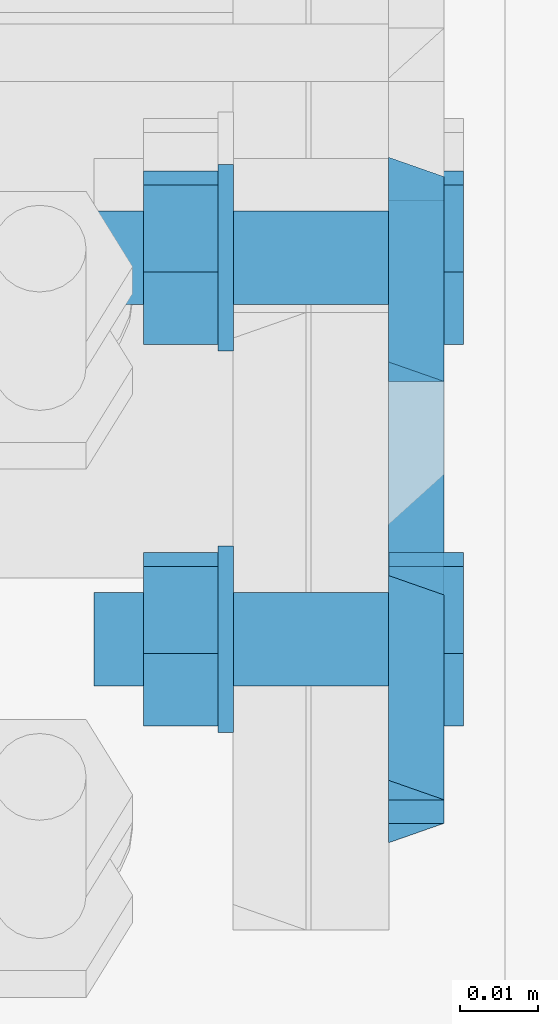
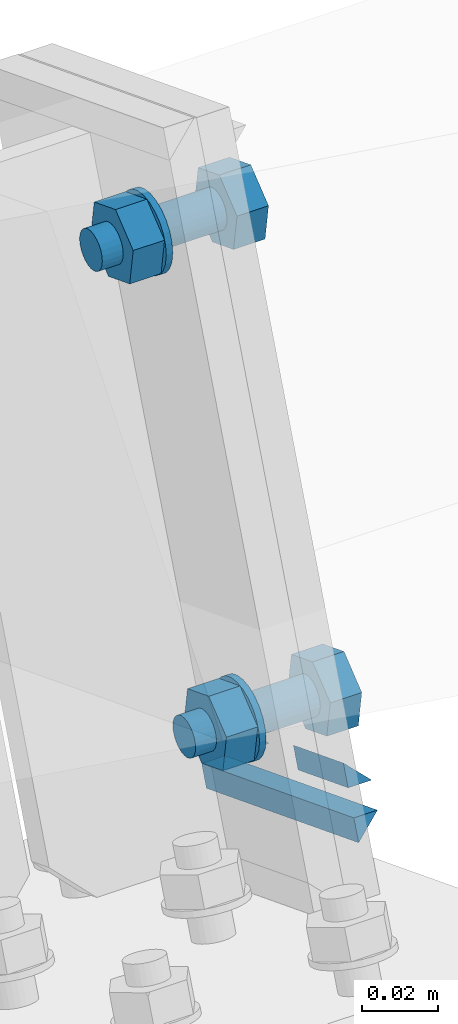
# One storey, part 49 of 72: 8 mechanical fasteners, 5 fasteners.
"""IFC4 building model written with IfcOpenShell, lengths in metres."""

from ifc_helpers import new_model, si_unit, frame, origin_with_axes, place, context, project, spatial, polyline, outline, extrude, type_object, element, save


model = new_model("IFC4")

# Units and contexts
model_context = context("Model", 3, precision=1e-05, world=origin_with_axes())
ifc_project = project(units=[si_unit("LENGTHUNIT", "METRE"), si_unit("AREAUNIT", "SQUARE_METRE"), si_unit("VOLUMEUNIT", "CUBIC_METRE"), si_unit("MASSUNIT", "GRAM", prefix="KILO"), si_unit("TIMEUNIT", "SECOND"), si_unit("PLANEANGLEUNIT", "RADIAN"), si_unit("SOLIDANGLEUNIT", "STERADIAN"), si_unit("THERMODYNAMICTEMPERATUREUNIT", "DEGREE_CELSIUS")], contexts=[model_context])

# Site, building, storey
placement_1 = place(None, origin_with_axes())
site = spatial("IfcSite", under=ifc_project, at=placement_1, Name="Italia", CompositionType="ELEMENT")
building = spatial("IfcBuilding", under=site, at=placement_1, Name="Uffici", CompositionType="ELEMENT")
storey = spatial("IfcBuildingStorey", under=building, at=placement_1, Name="Storey 0", CompositionType="ELEMENT", Elevation=0.0)

# Fasteners
fastener_type_1 = type_object("IfcFastenerType", Name="Collegamento 0208_0209", PredefinedType="WELD")
placement_2 = place(placement_1, origin_with_axes())
fastener_1_placement = place(placement_2, origin_with_axes())
element("IfcFastener", 1, at=fastener_1_placement, inside=storey, type_object=fastener_type_1, Name="Collegamento 0208_0209", context=model_context, shape_type="SweptSolid", body=[
    extrude(outline(polyline([(0.0, 0.0), (-0.00717354, 0.00695848), (0.0, 0.00695848), (0.0, 0.0)])), frame((6.82995, 4.78507, 5.16264), z_axis=(0.0, 0.932385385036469, -0.361465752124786), x_axis=(-1.0, 0.0, 0.0)), (0.0, 0.0, 1.0), 0.0861),
])
fastener_type_2 = type_object("IfcFastenerType", Name="Collegamento 0208_0209", PredefinedType="WELD")
fastener_2_placement = place(placement_2, origin_with_axes())
element("IfcFastener", 2, at=fastener_2_placement, inside=storey, type_object=fastener_type_2, Name="Collegamento 0208_0209", context=model_context, shape_type="SweptSolid", body=[
    extrude(outline(polyline([(0.0, 0.0), (0.00717354, -0.00695801), (0.0, -0.00695801), (0.0, 0.0)])), frame((6.82995, 4.81952, 5.17322), z_axis=(0.0, -0.932381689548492, 0.361475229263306), x_axis=(1.0, 0.0, 0.0)), (0.0, 0.0, 1.0), 0.0283009),
])
fastener_type_3 = type_object("IfcFastenerType", Name="Collegamento 0208_0209", PredefinedType="WELD")
fastener_3_placement = place(placement_2, origin_with_axes())
element("IfcFastener", 3, at=fastener_3_placement, inside=storey, type_object=fastener_type_3, Name="Collegamento 0208_0209", context=model_context, shape_type="SweptSolid", body=[
    extrude(outline(polyline([(0.0, 0.0), (0.00717354, -0.00695753), (0.0, -0.00695753), (0.0, 0.0)])), frame((6.82995, 4.87342, 5.15233), z_axis=(0.0, -0.932390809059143, 0.361451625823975), x_axis=(1.0, 0.0, 0.0)), (0.0, 0.0, 1.0), 0.0283001),
])
fastener_type_4 = type_object("IfcFastenerType", Name="Collegamento 0208_0209", PredefinedType="WELD")
fastener_4_placement = place(placement_2, origin_with_axes())
element("IfcFastener", 4, at=fastener_4_placement, inside=storey, type_object=fastener_type_4, Name="Collegamento 0208_0209", context=model_context, shape_type="SweptSolid", body=[
    extrude(outline(polyline([(0.0, 0.0), (-0.00717354, 0.00695848), (0.0, 0.00695848), (0.0, 0.0)])), frame((6.82995, 4.78507, 5.16264), z_axis=(0.0, 0.932385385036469, -0.361465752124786), x_axis=(-1.0, 0.0, 0.0)), (0.0, 0.0, 1.0), 0.0861),
])
fastener_type_5 = type_object("IfcFastenerType", Name="Collegamento 0208_0209", PredefinedType="WELD")
fastener_5_placement = place(placement_2, origin_with_axes())
element("IfcFastener", 5, at=fastener_5_placement, inside=storey, type_object=fastener_type_5, Name="Collegamento 0208_0209", context=model_context, shape_type="SweptSolid", body=[
    extrude(outline(polyline([(0.0, 0.0), (0.00717354, -0.00695801), (0.0, -0.00695801), (0.0, 0.0)])), frame((6.82995, 4.81952, 5.17322), z_axis=(0.0, -0.932381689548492, 0.361475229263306), x_axis=(1.0, 0.0, 0.0)), (0.0, 0.0, 1.0), 0.0283009),
])

# Mechanical fasteners
mechanical_fastener_type_1 = type_object("IfcMechanicalFastenerType", Name="Collegamento 0208_0209", PredefinedType="BOLT")
mechanical_fastener_1_placement = place(placement_2, origin_with_axes())
element("IfcMechanicalFastener", 6, at=mechanical_fastener_1_placement, inside=storey, type_object=mechanical_fastener_type_1, Name="Collegamento 0208_0209", NominalDiameter=0.0119998, context=model_context, shape_type="SweptSolid", body=[
    extrude(outline(polyline([(0.0, 0.0), (-0.0111885, 0.00433731), (-0.0130267, 0.0161958), (-0.00367594, 0.0237169), (0.00751257, 0.0193791), (0.00935078, 0.00752068), (0.0, 0.0)])), frame((6.83, 4.81314, 5.18234), z_axis=(1.0, 0.0, 0.0), x_axis=(0.0, 1.0, 0.0)), (0.0, 0.0, 1.0), 0.00960016),
])
mechanical_fastener_type_2 = type_object("IfcMechanicalFastenerType", Name="Collegamento 0208_0209", PredefinedType="BOLT")
mechanical_fastener_2_placement = place(placement_2, origin_with_axes())
element("IfcMechanicalFastener", 7, at=mechanical_fastener_2_placement, inside=storey, type_object=mechanical_fastener_type_2, Name="Collegamento 0208_0209", NominalDiameter=0.012, context=model_context, shape_type="SweptSolid", body=[
    extrude(outline(polyline([(0.0, 0.0), (-0.000204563, -0.00155306), (-0.000803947, -0.00299978), (-0.00175762, -0.00424242), (-0.00300026, -0.00519609), (-0.00444698, -0.00579548), (-0.00600004, -0.00600004), (-0.0075531, -0.00579548), (-0.00899982, -0.00519609), (-0.0102425, -0.00424242), (-0.0111961, -0.00299978), (-0.0117955, -0.00155306), (-0.0120001, 0.0), (-0.0117955, 0.00155306), (-0.0111961, 0.00299978), (-0.0102425, 0.00424242), (-0.00899982, 0.00519609), (-0.0075531, 0.00579548), (-0.00600004, 0.00600004), (-0.00444698, 0.00579548), (-0.00300026, 0.00519609), (-0.00175762, 0.00424242), (-0.000803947, 0.00299978), (-0.000204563, 0.00155306), (0.0, 0.0)])), frame((6.792, 4.8173, 5.1942), z_axis=(1.0, 0.0, 0.0), x_axis=(0.0, 1.0, 0.0)), (0.0, 0.0, 1.0), 0.0380001),
])
mechanical_fastener_type_3 = type_object("IfcMechanicalFastenerType", Name="Collegamento 0208_0209", PredefinedType="BOLT")
mechanical_fastener_3_placement = place(placement_2, origin_with_axes())
element("IfcMechanicalFastener", 8, at=mechanical_fastener_3_placement, inside=storey, type_object=mechanical_fastener_type_3, Name="Collegamento 0208_0209", NominalDiameter=0.0119998, context=model_context, shape_type="SweptSolid", body=[
    extrude(outline(polyline([(0.0, 0.0), (-0.0111885, 0.00433731), (-0.0130267, 0.0161958), (-0.00367594, 0.0237169), (0.00751257, 0.0193791), (0.00935078, 0.00752068), (0.0, 0.0)])), frame((6.7984, 4.81314, 5.18234), z_axis=(1.0, 0.0, 0.0), x_axis=(0.0, 1.0, 0.0)), (0.0, 0.0, 1.0), 0.00960016),
])
mechanical_fastener_type_4 = type_object("IfcMechanicalFastenerType", Name="Collegamento 0208_0209", PredefinedType="BOLT")
mechanical_fastener_4_placement = place(placement_2, origin_with_axes())
element("IfcMechanicalFastener", 9, at=mechanical_fastener_4_placement, inside=storey, type_object=mechanical_fastener_type_4, Name="Collegamento 0208_0209", NominalDiameter=0.024, context=model_context, shape_type="SweptSolid", body=[
    extrude(outline(polyline([(0.0, 0.0), (-0.000409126, -0.00310564), (-0.00160789, -0.00600004), (-0.00351477, -0.00848532), (-0.00600004, -0.0103922), (-0.00889444, -0.011591), (-0.0120001, -0.0120001), (-0.0151057, -0.011591), (-0.0180001, -0.0103922), (-0.0204854, -0.00848532), (-0.0223923, -0.00600004), (-0.023591, -0.00310564), (-0.0240002, 0.0), (-0.023591, 0.00310564), (-0.0223923, 0.00600004), (-0.0204854, 0.00848532), (-0.0180001, 0.0103922), (-0.0151057, 0.011591), (-0.0120001, 0.0120001), (-0.00889444, 0.011591), (-0.00600004, 0.0103922), (-0.00351477, 0.00848532), (-0.00160789, 0.00600004), (-0.000409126, 0.00310564), (0.0, 0.0)])), frame((6.808, 4.8233, 5.1942), z_axis=(1.0, 0.0, 0.0), x_axis=(0.0, 1.0, 0.0)), (0.0, 0.0, 1.0), 0.00199986),
])
mechanical_fastener_type_5 = type_object("IfcMechanicalFastenerType", Name="Collegamento 0208_0209", PredefinedType="BOLT")
mechanical_fastener_5_placement = place(placement_2, origin_with_axes())
element("IfcMechanicalFastener", 10, at=mechanical_fastener_5_placement, inside=storey, type_object=mechanical_fastener_type_5, Name="Collegamento 0208_0209", NominalDiameter=0.0119998, context=model_context, shape_type="SweptSolid", body=[
    extrude(outline(polyline([(0.0, 0.0), (-0.0111885, 0.00433731), (-0.0130262, 0.0161958), (-0.00367546, 0.0237164), (0.00751305, 0.0193791), (0.00935078, 0.00752068), (0.0, 0.0)])), frame((6.83, 4.8623, 5.30915), z_axis=(1.0, 0.0, 0.0), x_axis=(0.0, 1.0, 0.0)), (0.0, 0.0, 1.0), 0.00960016),
])
mechanical_fastener_type_6 = type_object("IfcMechanicalFastenerType", Name="Collegamento 0208_0209", PredefinedType="BOLT")
mechanical_fastener_6_placement = place(placement_2, origin_with_axes())
element("IfcMechanicalFastener", 11, at=mechanical_fastener_6_placement, inside=storey, type_object=mechanical_fastener_type_6, Name="Collegamento 0208_0209", NominalDiameter=0.012, context=model_context, shape_type="SweptSolid", body=[
    extrude(outline(polyline([(0.0, 0.0), (-0.000204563, -0.00155306), (-0.000803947, -0.00299978), (-0.00175762, -0.00424242), (-0.00300026, -0.00519609), (-0.00444698, -0.00579548), (-0.00600004, -0.00600004), (-0.0075531, -0.00579548), (-0.00899982, -0.00519609), (-0.0102425, -0.00424242), (-0.0111961, -0.00299978), (-0.0117955, -0.00155306), (-0.0120001, 0.0), (-0.0117955, 0.00155306), (-0.0111961, 0.00299978), (-0.0102425, 0.00424242), (-0.00899982, 0.00519609), (-0.0075531, 0.00579548), (-0.00600004, 0.00600004), (-0.00444698, 0.00579548), (-0.00300026, 0.00519609), (-0.00175762, 0.00424242), (-0.000803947, 0.00299978), (-0.000204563, 0.00155306), (0.0, 0.0)])), frame((6.792, 4.86646, 5.32101), z_axis=(1.0, 0.0, 0.0), x_axis=(0.0, 1.0, 0.0)), (0.0, 0.0, 1.0), 0.0380001),
])
mechanical_fastener_type_7 = type_object("IfcMechanicalFastenerType", Name="Collegamento 0208_0209", PredefinedType="BOLT")
mechanical_fastener_7_placement = place(placement_2, origin_with_axes())
element("IfcMechanicalFastener", 12, at=mechanical_fastener_7_placement, inside=storey, type_object=mechanical_fastener_type_7, Name="Collegamento 0208_0209", NominalDiameter=0.0119998, context=model_context, shape_type="SweptSolid", body=[
    extrude(outline(polyline([(0.0, 0.0), (-0.0111885, 0.00433731), (-0.0130262, 0.0161958), (-0.00367546, 0.0237164), (0.00751305, 0.0193791), (0.00935078, 0.00752068), (0.0, 0.0)])), frame((6.7984, 4.8623, 5.30915), z_axis=(1.0, 0.0, 0.0), x_axis=(0.0, 1.0, 0.0)), (0.0, 0.0, 1.0), 0.00960016),
])
mechanical_fastener_type_8 = type_object("IfcMechanicalFastenerType", Name="Collegamento 0208_0209", PredefinedType="BOLT")
mechanical_fastener_8_placement = place(placement_2, origin_with_axes())
element("IfcMechanicalFastener", 13, at=mechanical_fastener_8_placement, inside=storey, type_object=mechanical_fastener_type_8, Name="Collegamento 0208_0209", NominalDiameter=0.024, context=model_context, shape_type="SweptSolid", body=[
    extrude(outline(polyline([(0.0, 0.0), (-0.000409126, -0.00310564), (-0.00160789, -0.00600004), (-0.00351477, -0.00848532), (-0.00600004, -0.0103922), (-0.00889444, -0.011591), (-0.0120001, -0.0120001), (-0.0151057, -0.011591), (-0.0180001, -0.0103922), (-0.0204854, -0.00848532), (-0.0223923, -0.00600004), (-0.023591, -0.00310564), (-0.0240002, 0.0), (-0.023591, 0.00310564), (-0.0223923, 0.00600004), (-0.0204854, 0.00848532), (-0.0180001, 0.0103922), (-0.0151057, 0.011591), (-0.0120001, 0.0120001), (-0.00889444, 0.011591), (-0.00600004, 0.0103922), (-0.00351477, 0.00848532), (-0.00160789, 0.00600004), (-0.000409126, 0.00310564), (0.0, 0.0)])), frame((6.808, 4.87246, 5.32101), z_axis=(1.0, 0.0, 0.0), x_axis=(0.0, 1.0, 0.0)), (0.0, 0.0, 1.0), 0.00199986),
])

save(model, "model.ifc")
